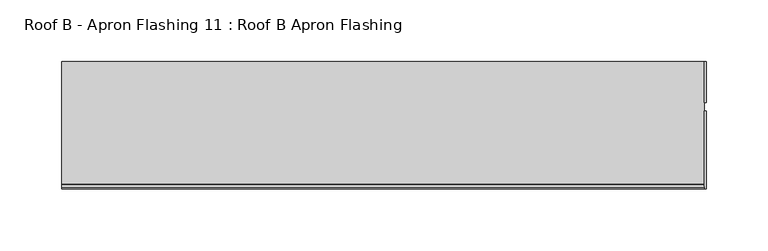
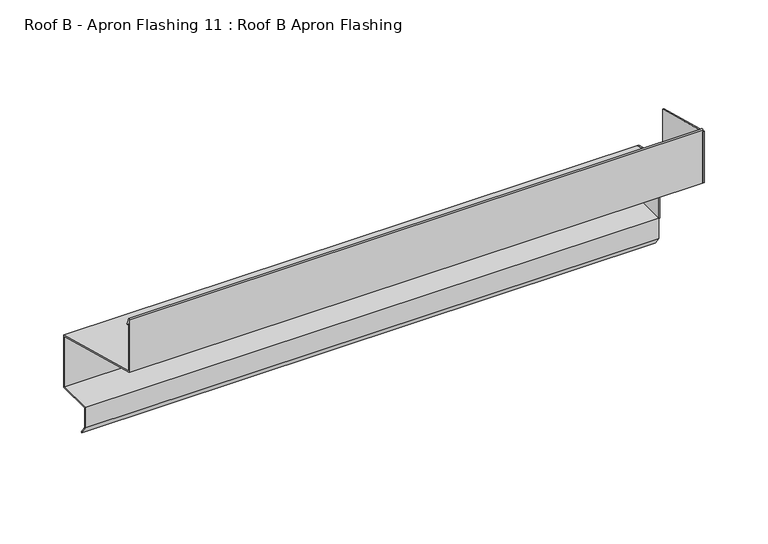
"""IFC4 building model written with IfcOpenShell, lengths in millimetres: proxy geometry, Roof B - Apron Flashing 11 : Roof B Apron Flashing."""

from ifc_helpers import new_model, si_unit, point, frame, frame_2d, origin, place, context, project, spatial, polyline, circle_curve, trimmed, segment, composite_curve, outline, extrude, source, transform, mapped, element, save


def roof_b_apron_flashing_11_roof_b_apron_flashing_70cea629(model_context):
    return source(origin(), model_context, "Body", "SweptSolid", [
        extrude(outline(polyline([(-26537.2645229, -392.0096237), (-26570.1394548, -392.0096237), (-26570.1394548, -333.2008122), (-26537.2645229, -342.0096237), (-26537.2645229, -392.0096237)])), frame((13541.4252872, 0.0, 0.0), z_axis=(1.0, 0.0, 0.0), x_axis=(0.0, 1.0, 0.0)), (0.0, 0.0, 1.0), 1.3240587),
        extrude(outline(polyline([(-26577.0535417, -283.1155152), (-26577.0535417, -332.3834644), (-26640.1375048, -315.4801674), (-26640.1375048, -266.2122183), (-26577.0535417, -283.1155152)])), frame((13541.4252872, 0.0, 0.0), z_axis=(1.0, 0.0, 0.0), x_axis=(0.0, 1.0, 0.0)), (0.0, 0.0, 1.0), 1.3240587),
        extrude(outline(composite_curve([segment(polyline([(-26537.2645229, -342.0096237), (-26537.2645229, -392.0096237), (-26569.8678877, -392.0096237), (-26569.8678877, -410.3959053), (-26564.656988, -417.8378413), (-26565.4761401, -418.4114178), (-26570.8678877, -410.7112041), (-26570.8678877, -391.0096237), (-26538.2645229, -391.0096237), (-26538.2645229, -342.7769507), (-26640.1375048, -315.4801674), (-26640.1375048, -264.8977528)]), True, "CONTINUOUS"), segment(trimmed(circle_curve(frame_2d((-26639.4584606, -264.8977528)), 0.6790442), [point((-26640.1375048, -264.8977528))], [point((-26638.8288618, -264.6433784))], False, "CARTESIAN"), True, "CONTINUOUS"), segment(polyline([(-26638.8288618, -264.6433784), (-26636.4144069, -270.6193639)]), True, "CONTINUOUS"), segment(trimmed(circle_curve(frame_2d((-26636.8779989, -270.8066672)), 0.5), [point((-26636.4144069, -270.6193639))], [point((-26637.3415908, -270.9939705))], False, "CARTESIAN"), True, "CONTINUOUS"), segment(polyline([(-26637.3415908, -270.9939705), (-26639.1375048, -266.5489273), (-26639.1375048, -314.7128405), (-26537.2645229, -342.0096237)]), True, "CONTINUOUS")], self_intersect=False)), frame((13022.3947018, 0.0, 0.0), z_axis=(1.0, 0.0, 0.0), x_axis=(0.0, 1.0, 0.0)), (0.0, 0.0, 1.0), 519.0305854),
    ])


if __name__ == "__main__":
    model = new_model("IFC4")
    model_context = context("Model", 3, world=origin())
    ifc_project = project(units=[si_unit("LENGTHUNIT", "METRE", prefix="MILLI")], contexts=[model_context])
    site = spatial("IfcSite", under=ifc_project)
    building = spatial("IfcBuilding", under=site)
    placement = place(None, origin())
    roof_b_apron_flashing_11_roof_b_apron_flashing_shape = roof_b_apron_flashing_11_roof_b_apron_flashing_70cea629(model_context)
    element("IfcBuildingElementProxy", 1, Name="Roof B - Apron Flashing 11 : Roof B Apron Flashing", ObjectType="Roof B - Apron Flashing 11 : Roof B Apron Flashing", at=placement, inside=building, context=model_context, shape_type="MappedRepresentation", body=[
        mapped(roof_b_apron_flashing_11_roof_b_apron_flashing_shape, transform((0.0, 0.0, 0.0), x_axis=(1.0, 0.0, 0.0), y_axis=(0.0, 1.0, 0.0), z_axis=(0.0, 0.0, 1.0))),
    ])
    save(model, "model.ifc")
